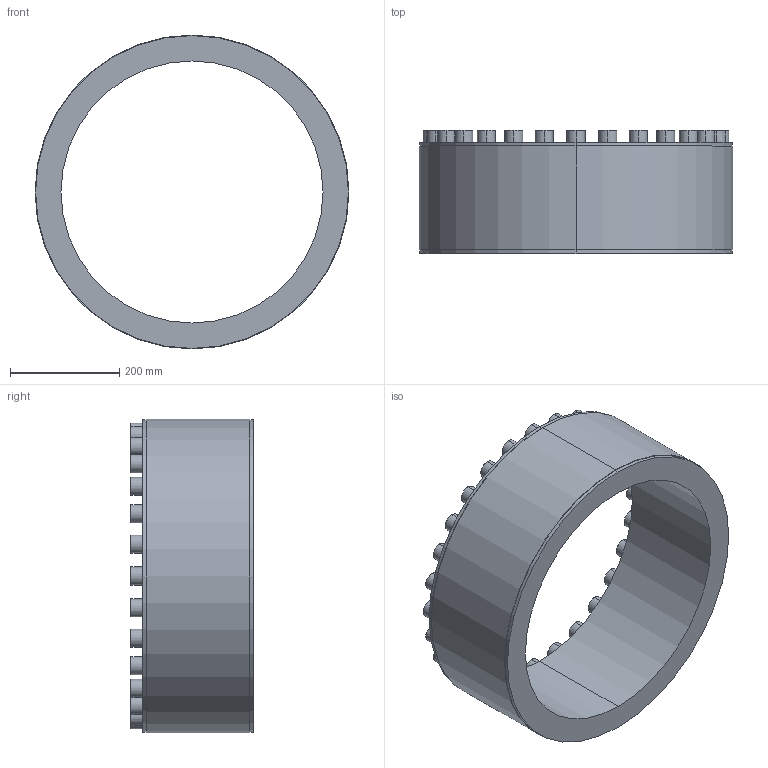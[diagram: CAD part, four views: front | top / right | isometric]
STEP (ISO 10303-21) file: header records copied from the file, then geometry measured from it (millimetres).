
FILE_DESCRIPTION (( 'STEP AP203' ), '1' );
FILE_NAME ('PL-D1 480-575.STEP', '2021-10-23T00:27:16', ( '' ), ( '' ), 'SwSTEP 2.0', 'SolidWorks 2018', '' );
FILE_SCHEMA (( 'CONFIG_CONTROL_DESIGN' ));
Length unit declared in the file: millimetre
Products named in the file (1): PL-D1 480-575
Bounding box: 575 x 225 x 575 mm (x, y, z)
Volume: 16405635.8 mm3; surface area: 911544.8 mm2
Topology: 1 solids, 1 shells, 348 faces, 808 edges, 520 vertices
Faces by surface type: plane 228, cylinder 64, torus 56
Entity records: 9925 total; most frequent: DIRECTION 1746, CARTESIAN_POINT 1677, ORIENTED_EDGE 1616, EDGE_CURVE 808, AXIS2_PLACEMENT_3D 589, VECTOR 568, LINE 568, VERTEX_POINT 520
